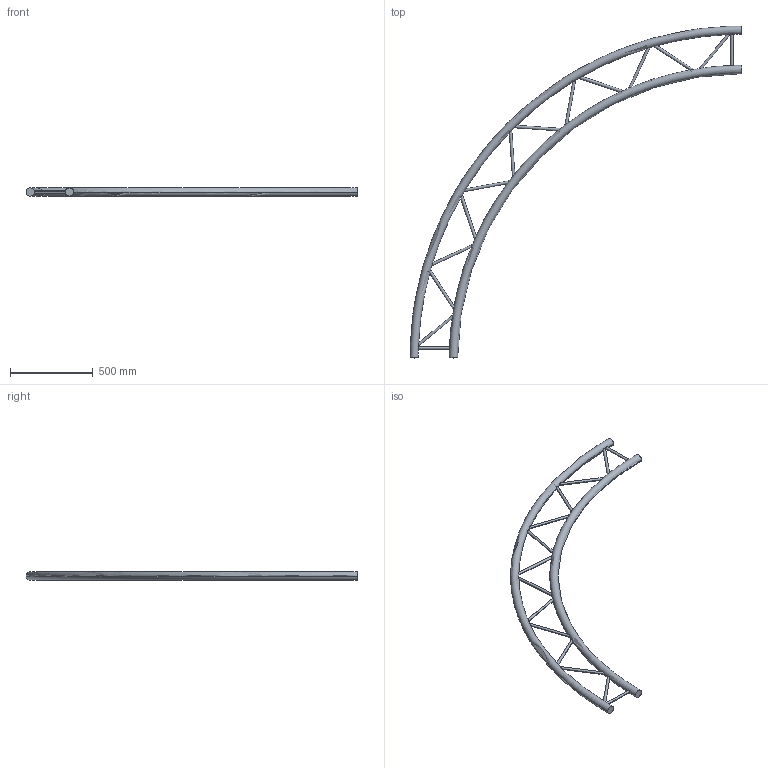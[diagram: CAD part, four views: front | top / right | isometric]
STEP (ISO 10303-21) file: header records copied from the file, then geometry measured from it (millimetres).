
FILE_DESCRIPTION (( 'STEP AP203' ), '1' );
FILE_NAME ('EXC29400H.STEP', '2009-10-26T09:35:00', ( 'CEDIA' ), ( 'CEDIA INDUSTRIE' ), 'SwSTEP 2.0', 'SolidWorks 2009', '' );
FILE_SCHEMA (( 'CONFIG_CONTROL_DESIGN' ));
Length unit declared in the file: millimetre
Products named in the file (1): EXC29400H
Bounding box: 2000 x 2000 x 50 mm (x, y, z)
Volume: 12161413.8 mm3; surface area: 1094291.3 mm2
Topology: 1 solids, 1 shells, 36 faces, 124 edges, 64 vertices
Faces by surface type: cylinder 28, torus 4, plane 4
Entity records: 3922 total; most frequent: CARTESIAN_POINT 2850, ORIENTED_EDGE 248, DIRECTION 182, EDGE_CURVE 124, AXIS2_PLACEMENT_3D 77, VERTEX_POINT 64, B_SPLINE_CURVE_WITH_KNOTS 56, CIRCLE 40
